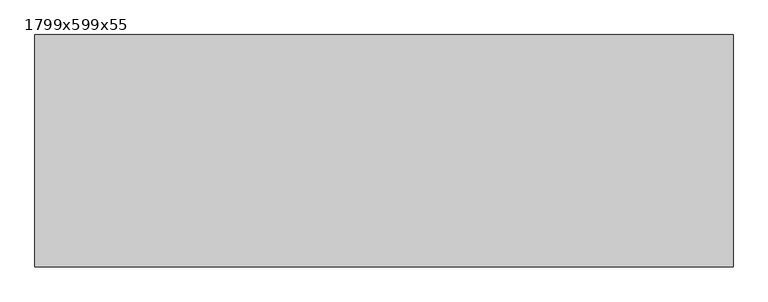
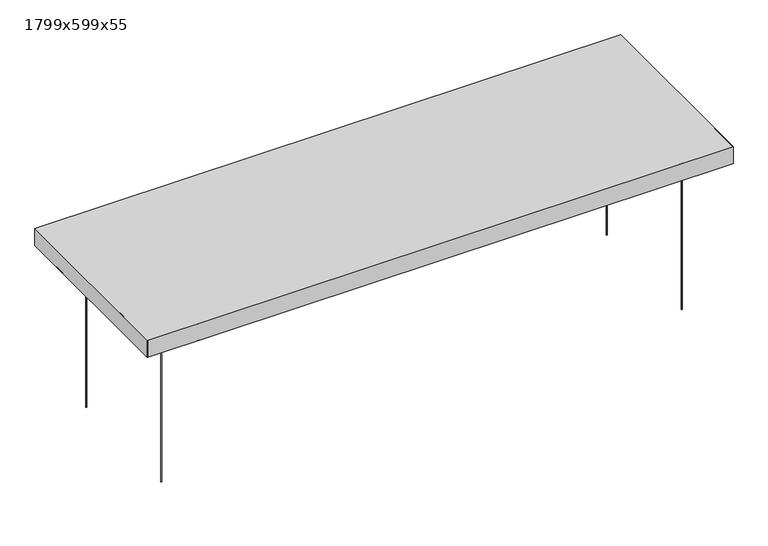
"""IFC4 building model written with IfcOpenShell, lengths in millimetres: proxy geometry, Texaa_Plafond respirant_Strato_Panneaux absorbant : 1799x599x55."""

from ifc_helpers import new_model, si_unit, point, frame, frame_2d, origin, origin_with_axes, place, context, project, spatial, polyline, circle_curve, trimmed, segment, composite_curve, outline, extrude, faceted_brep, source, transform, mapped, element, save


def proxy_1799x599x55_ae23710c(model_context):
    return source(origin(), model_context, "Body", "SolidModel", [
        extrude(outline(composite_curve([segment(trimmed(circle_curve(frame_2d((-799.5, -199.5)), 0.75), [point((-800.25, -199.5))], [point((-798.75, -199.5))], False, "CARTESIAN"), True, "CONTINUOUS"), segment(trimmed(circle_curve(frame_2d((-799.5, -199.5)), 0.75), [point((-798.75, -199.5))], [point((-800.25, -199.5))], False, "CARTESIAN"), True, "CONTINUOUS")], self_intersect=False)), origin_with_axes(), (0.0, 0.0, 1.0), 500.0),
        extrude(outline(composite_curve([segment(trimmed(circle_curve(frame_2d((799.5, -199.5)), 0.75), [point((798.75, -199.5))], [point((800.25, -199.5))], False, "CARTESIAN"), True, "CONTINUOUS"), segment(trimmed(circle_curve(frame_2d((799.5, -199.5)), 0.75), [point((800.25, -199.5))], [point((798.75, -199.5))], False, "CARTESIAN"), True, "CONTINUOUS")], self_intersect=False)), origin_with_axes(), (0.0, 0.0, 1.0), 500.0),
        extrude(outline(composite_curve([segment(trimmed(circle_curve(frame_2d((799.5, 199.5)), 0.75), [point((798.75, 199.5))], [point((800.25, 199.5))], False, "CARTESIAN"), True, "CONTINUOUS"), segment(trimmed(circle_curve(frame_2d((799.5, 199.5)), 0.75), [point((800.25, 199.5))], [point((798.75, 199.5))], False, "CARTESIAN"), True, "CONTINUOUS")], self_intersect=False)), origin_with_axes(), (0.0, 0.0, 1.0), 500.0),
        extrude(outline(composite_curve([segment(trimmed(circle_curve(frame_2d((-799.5, 199.5)), 0.75), [point((-800.25, 199.5))], [point((-798.75, 199.5))], False, "CARTESIAN"), True, "CONTINUOUS"), segment(trimmed(circle_curve(frame_2d((-799.5, 199.5)), 0.75), [point((-798.75, 199.5))], [point((-800.25, 199.5))], False, "CARTESIAN"), True, "CONTINUOUS")], self_intersect=False)), origin_with_axes(), (0.0, 0.0, 1.0), 500.0),
        extrude(outline(polyline([(-898.5, -298.5), (-898.5, 298.5), (898.5, 298.5), (898.5, -298.5), (-898.5, -298.5)])), frame((0.0, 0.0, 501.0), z_axis=(0.0, 0.0, 1.0), x_axis=(1.0, 0.0, 0.0)), (0.0, 0.0, 1.0), 53.0),
        faceted_brep([(-899.5, -299.5, 555.0), (899.5, -299.5, 555.0), (899.5, 299.5, 555.0), (-899.5, 299.5, 555.0), (-899.5, -299.5, 500.0), (-899.5, 299.5, 500.0), (899.5, 299.5, 500.0), (899.5, -299.5, 500.0), (-849.5, 249.5, 500.0), (-849.5, -249.5, 500.0), (849.5, -249.5, 500.0), (849.5, 249.5, 500.0), (849.5, 249.5, 501.0), (-849.5, 249.5, 501.0), (849.5, -249.5, 501.0), (-849.5, -249.5, 501.0), (-898.5, -298.5, 554.0), (-898.5, 298.5, 554.0), (898.5, 298.5, 554.0), (898.5, -298.5, 554.0), (-898.5, -298.5, 501.0), (898.5, -298.5, 501.0), (898.5, 298.5, 501.0), (-898.5, 298.5, 501.0)], [[[0, 1, 2, 3]], [[4, 5, 6, 7], [8, 9, 10, 11]], [[3, 5, 4, 0]], [[2, 6, 5, 3]], [[1, 7, 6, 2]], [[0, 4, 7, 1]], [[8, 11, 12, 13]], [[11, 10, 14, 12]], [[10, 9, 15, 14]], [[13, 15, 9, 8]], [[16, 17, 18, 19]], [[20, 21, 22, 23], [12, 14, 15, 13]], [[16, 20, 23, 17]], [[17, 23, 22, 18]], [[18, 22, 21, 19]], [[19, 21, 20, 16]]]),
    ])


if __name__ == "__main__":
    model = new_model("IFC4")
    model_context = context("Model", 3, world=origin())
    ifc_project = project(units=[si_unit("LENGTHUNIT", "METRE", prefix="MILLI")], contexts=[model_context])
    site = spatial("IfcSite", under=ifc_project)
    building = spatial("IfcBuilding", under=site)
    placement = place(None, origin())
    proxy_1799x599x55_shape = proxy_1799x599x55_ae23710c(model_context)
    element("IfcBuildingElementProxy", 1, Name="Texaa_Plafond respirant_Strato_Panneaux absorbant : 1799x599x55", ObjectType="Texaa_Plafond respirant_Strato_Panneaux absorbant : 1799x599x55", at=placement, inside=building, context=model_context, shape_type="MappedRepresentation", body=[
        mapped(proxy_1799x599x55_shape, transform((0.0, 0.0, 0.0), x_axis=(1.0, 0.0, 0.0), y_axis=(0.0, 1.0, 0.0), z_axis=(0.0, 0.0, 1.0))),
    ])
    save(model, "model.ifc")
